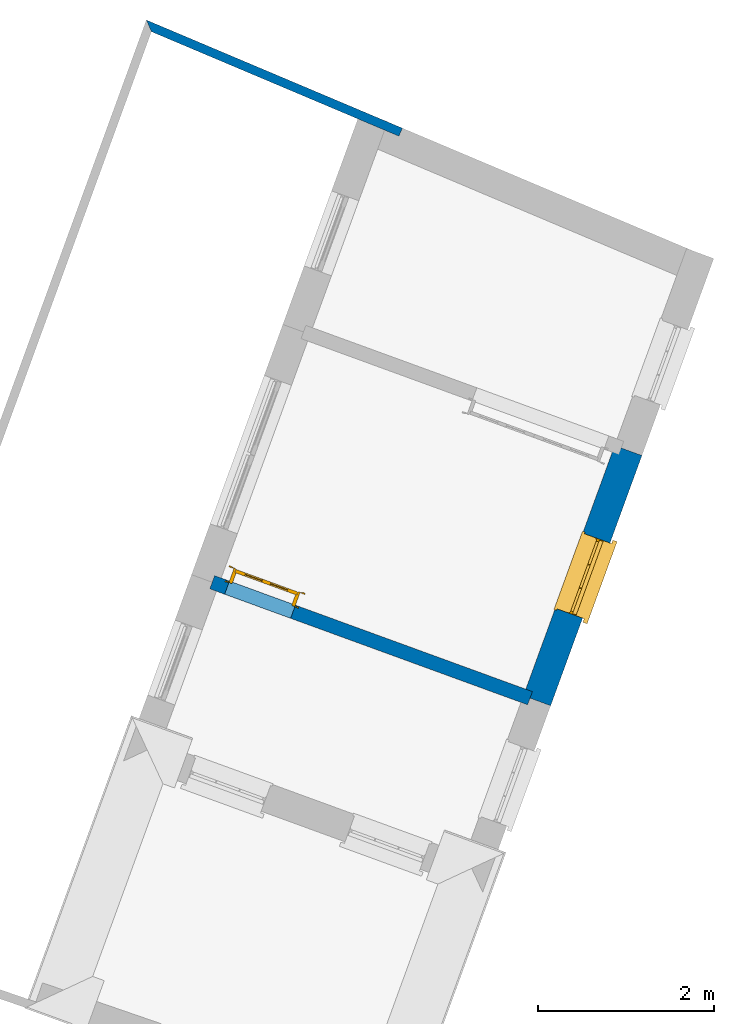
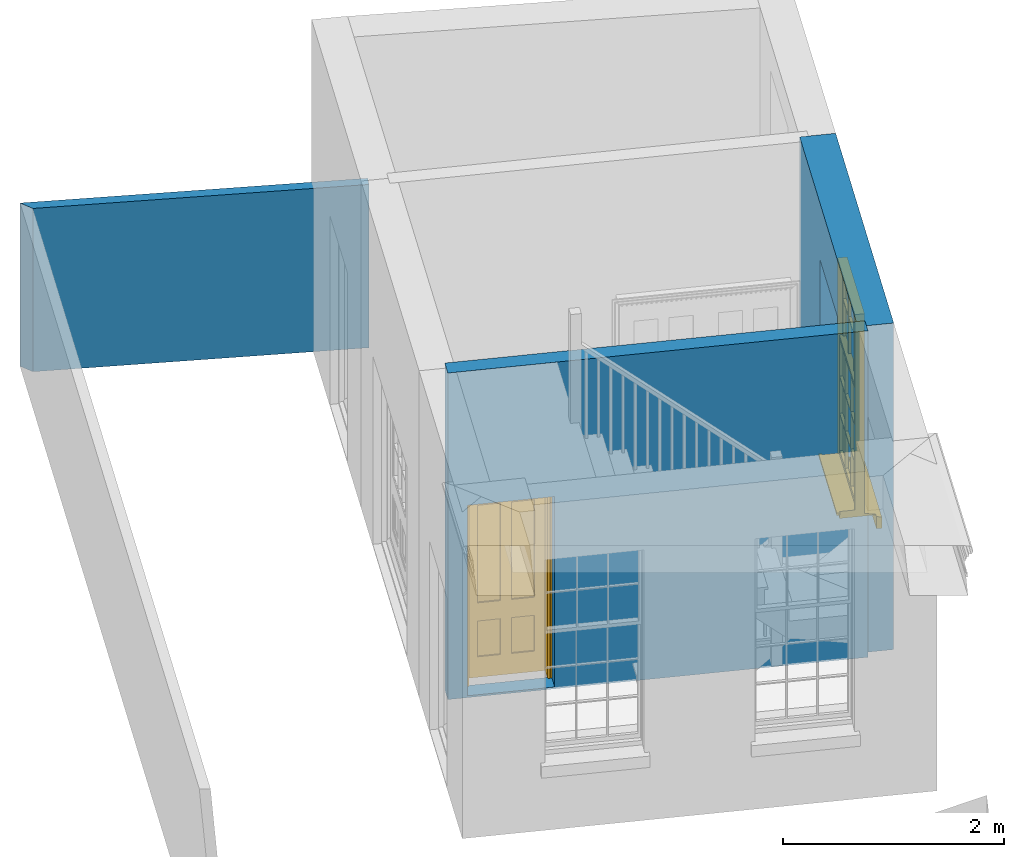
# One storey, part 4 of 6: 3 walls, 1 door, 1 window, 2 openings.
"""IFC4 building model written with IfcOpenShell, lengths in metres."""

from ifc_helpers import new_model, si_unit, frame, origin, origin_with_axes, place, context, subcontext, project, spatial, polyline, outline, extrude, faceted_brep, source, transform, mapped, material, layer, layer_set, layer_usage, type_object, type_shapes, element, fill, save


model = new_model("IFC4")

# Units and contexts
model_context = context("Model", 3, world=origin_with_axes())
body_context = subcontext(model_context, "Body", "Model", "MODEL_VIEW")
ifc_project = project(units=[si_unit("PLANEANGLEUNIT", "RADIAN"), si_unit("MASSUNIT", "GRAM", prefix="KILO"), si_unit("FORCEUNIT", "NEWTON", prefix="KILO"), si_unit("LENGTHUNIT", "METRE"), si_unit("AREAUNIT", "SQUARE_METRE"), si_unit("VOLUMEUNIT", "CUBIC_METRE")], contexts=[model_context, model_context])

# Sites, building, storey
site_1_placement = place(None, origin_with_axes())
site_1 = spatial("IfcSite", under=ifc_project, at=site_1_placement, Name="Tamar")
site_2_placement = place(site_1_placement, origin_with_axes())
site_2 = spatial("IfcSite", under=site_1, at=site_2_placement, Name="Site plot-14", CompositionType="ELEMENT")
building_placement = place(None, origin_with_axes())
building = spatial("IfcBuilding", under=site_2, at=building_placement, Name="Building plot-14", CompositionType="ELEMENT")
storey_placement = place(None, frame((0.0, 0.0, 26.8), z_axis=(0.0, 0.0, 1.0), x_axis=(1.0, 0.0, 0.0)))
storey = spatial("IfcBuildingStorey", under=building, at=storey_placement, Name="plot-14 0", CompositionType="ELEMENT", Elevation=26.8)

# Wall, opening, window
ifc_material_1 = material(Name="Masonry")
ifc_layer_1 = layer(ifc_material_1, 0.33, ventilated=False)
ifc_layer_set_1 = layer_set([ifc_layer_1], Name="exterior_0.08_0.25")
ifc_layer_usage_1 = layer_usage(ifc_layer_set_1, "AXIS2", "POSITIVE", -0.25)
wall_type_1 = type_object("IfcWallType", Name="exterior_0.08_0.25", PredefinedType="SOLIDWALL", material=ifc_layer_set_1)
wall_1_placement = place(storey_placement, frame((253.880110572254, 309.980773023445, 0.0), z_axis=(0.0, 0.0, 1.0), x_axis=(0.342734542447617, 0.939432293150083, 0.0)))
wall_1 = element("IfcWall", 1, at=wall_1_placement, inside=storey, type_object=wall_type_1, material=ifc_layer_usage_1, Name="exterior", context=body_context, shape_type="SweptSolid", body=[
    extrude(outline(polyline([(1.15953053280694e-15, 0.0800000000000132), (3.70412459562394e-14, -0.250000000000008), (3.03282372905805, -0.25), (3.03282372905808, 0.0800000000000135), (1.15953053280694e-15, 0.0800000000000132)])), origin_with_axes(), (0.0, 0.0, 1.0), 3.6),
])
opening_1_placement = place(wall_1_placement, frame((1.06141186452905, 0.0, 0.75)))
opening_1 = element("IfcOpeningElement", 2, at=opening_1_placement, cuts=wall_1, Name="My Opening", ObjectType="Opening", context=body_context, shape_type="SweptSolid", body=[
    extrude(outline(polyline([(0.0, -0.269999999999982), (0.909999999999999, -0.269999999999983), (0.909999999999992, 1.1), (-5.99520433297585e-15, 1.1), (0.0, -0.269999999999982)])), origin_with_axes(), (0.0, 0.0, 1.0), 2.23),
])
window_type = type_object("IfcWindowType", Name="sash_big_taller", PartitioningType="DOUBLE_PANEL_HORIZONTAL", PredefinedType="NOTDEFINED")
shared_shape_1 = source(origin(), body_context, "Body", "Brep", [
    faceted_brep([(0.033125, 0.145, 1.385209), (0.01, 0.145, 1.385209), (0.033125, 0.145, 1.786042), (0.876875, 0.145, 1.385209), (0.876875, 0.145, 1.786042), (0.9, 0.145, 1.385209), (0.876875, 0.145, 1.796042), (0.876875, 0.145, 2.196875), (0.9, 0.145, 2.22), (0.033125, 0.145, 2.196875), (0.033125, 0.145, 1.796042), (0.01, 0.145, 2.22), (0.876875, 0.115, 1.786042), (0.876875, 0.115, 1.385209), (0.9, 0.115, 1.347084), (0.033125, 0.115, 2.196875), (0.01, 0.115, 2.22), (0.033125, 0.115, 1.796042), (0.01, 0.115, 1.347084), (0.033125, 0.115, 1.385209), (0.033125, 0.115, 1.786042), (0.876875, 0.115, 2.196875), (0.876875, 0.115, 1.796042), (0.9, 0.115, 2.22), (0.033125, 0.145, 1.347084), (0.01, 0.145, 1.347084), (0.033125, 0.145, 0.94625), (0.876875, 0.145, 1.347084), (0.876875, 0.145, 0.94625), (0.9, 0.145, 1.347084), (0.876875, 0.145, 0.52625), (0.876875, 0.145, 0.125417), (0.9, 0.145, 0.077167), (0.033125, 0.145, 0.125417), (0.033125, 0.145, 0.52625), (0.01, 0.145, 0.077167), (-0.0425, 0.0, 0.01), (-0.0425, -0.05, 0.001667), (0.0, 0.0, 0.01), (0.9525, 0.0, 0.01), (0.91, 0.0, 0.01), (0.9525, -0.05, 0.001667), (-0.02, 0.33, 0.077167), (0.0, 0.33, 0.077167), (-0.02, 0.36, 0.077167), (0.0, 0.19, 0.077167), (0.01, 0.19, 0.077167), (0.91, 0.19, 0.077167), (0.91, 0.33, 0.077167), (0.9, 0.19, 0.077167), (0.93, 0.33, 0.077167), (0.93, 0.36, 0.077167), (0.01, 0.175, 1.385209), (0.9, 0.175, 1.385209), (0.876875, 0.175, 0.125417), (0.876875, 0.175, 0.52625), (0.9, 0.175, 0.077167), (0.876875, 0.175, 0.94625), (0.876875, 0.175, 1.347084), (0.033125, 0.175, 0.125417), (0.01, 0.175, 0.077167), (0.033125, 0.175, 0.52625), (0.033125, 0.175, 1.347084), (0.033125, 0.175, 0.94625), (-0.02, 0.33, 0.052167), (-0.02, 0.36, 0.052167), (0.93, 0.36, 0.052167), (0.93, 0.33, 0.052167), (0.91, 0.33, 0.052167), (0.0, 0.33, 0.052167), (0.91, 0.1, 0.026667), (0.0, 0.1, 0.026667), (-0.0425, -0.05, -0.123333), (0.9525, -0.05, -0.123333), (-0.0425, 0.0, -0.123333), (0.9525, 0.0, -0.123333), (0.01, 0.19, 2.22), (0.9, 0.19, 2.22), (0.0, 0.19, 2.23), (0.91, 0.19, 2.23), (0.01, 0.1, 0.077167), (0.9, 0.1, 0.077167), (0.592292, 0.145, 0.125417), (0.592292, 0.175, 0.125417), (0.317708, 0.175, 0.125417), (0.317708, 0.145, 0.125417), (0.592292, 0.145, 0.53625), (0.317708, 0.145, 0.53625), (0.317708, 0.145, 0.52625), (0.592292, 0.145, 0.52625), (0.592292, 0.175, 0.53625), (0.317708, 0.175, 0.53625), (0.592292, 0.115, 1.796042), (0.592292, 0.145, 1.796042), (0.317708, 0.145, 1.796042), (0.317708, 0.115, 1.796042), (0.317708, 0.115, 1.786042), (0.592292, 0.115, 1.786042), (0.317708, 0.145, 1.786042), (0.592292, 0.145, 1.786042), (0.602292, 0.115, 1.786042), (0.592292, 0.115, 1.385209), (0.602292, 0.115, 1.385209), (0.602292, 0.145, 1.385209), (0.592292, 0.145, 1.385209), (0.602292, 0.145, 1.786042), (0.876875, 0.145, 0.53625), (0.876875, 0.175, 0.53625), (0.602292, 0.175, 0.53625), (0.602292, 0.145, 0.53625), (0.317708, 0.175, 0.52625), (0.307708, 0.175, 0.125417), (0.307708, 0.175, 0.52625), (0.602292, 0.175, 0.52625), (0.602292, 0.175, 0.125417), (0.592292, 0.175, 0.52625), (0.307708, 0.175, 0.53625), (0.033125, 0.175, 0.53625), (0.317708, 0.175, 1.347084), (0.317708, 0.175, 0.94625), (0.307708, 0.175, 0.94625), (0.307708, 0.175, 1.347084), (0.602292, 0.175, 1.347084), (0.602292, 0.175, 0.94625), (0.592292, 0.175, 0.94625), (0.592292, 0.175, 1.347084), (0.307708, 0.145, 0.52625), (0.307708, 0.145, 0.125417), (0.307708, 0.145, 0.53625), (0.033125, 0.145, 0.53625), (0.307708, 0.145, 1.347084), (0.307708, 0.145, 0.94625), (0.592292, 0.145, 1.347084), (0.592292, 0.145, 0.94625), (0.317708, 0.145, 0.94625), (0.317708, 0.145, 1.347084), (0.602292, 0.145, 0.94625), (0.602292, 0.145, 1.347084), (0.602292, 0.145, 0.52625), (0.602292, 0.145, 0.125417), (0.307708, 0.115, 1.796042), (0.307708, 0.115, 1.786042), (0.307708, 0.115, 1.385209), (0.317708, 0.115, 1.385209), (0.317708, 0.115, 2.196875), (0.307708, 0.115, 2.196875), (0.602292, 0.115, 2.196875), (0.592292, 0.115, 2.196875), (0.602292, 0.115, 1.796042), (0.602292, 0.145, 1.796042), (0.307708, 0.145, 1.796042), (0.307708, 0.145, 2.196875), (0.317708, 0.145, 2.196875), (0.592292, 0.145, 2.196875), (0.602292, 0.145, 2.196875), (0.307708, 0.145, 1.786042), (0.317708, 0.145, 1.385209), (0.307708, 0.145, 1.385209), (0.876875, 0.175, 0.93625), (0.033125, 0.175, 0.93625), (0.033125, 0.145, 0.93625), (0.876875, 0.145, 0.93625), (0.91, 0.1, 2.23), (0.9, 0.1, 2.22), (0.01, 0.1, 2.22), (0.0, 0.1, 2.23), (0.91, 0.0, 0.0), (0.0, 0.0, 0.0), (0.91, 0.33, 0.0), (0.0, 0.33, 0.0), (0.317708, 0.145, 0.93625), (0.592292, 0.145, 0.93625), (0.317708, 0.175, 0.93625), (0.307708, 0.175, 0.93625), (0.602292, 0.175, 0.93625), (0.592292, 0.175, 0.93625), (0.307708, 0.145, 0.93625), (0.602292, 0.145, 0.93625)], [[[0, 1, 2]], [[3, 4, 5]], [[6, 7, 8]], [[9, 10, 11]], [[12, 13, 14]], [[15, 16, 17]], [[18, 19, 20]], [[21, 22, 23]], [[24, 25, 26]], [[27, 28, 29]], [[30, 31, 32]], [[33, 34, 35]], [[14, 27, 29]], [[25, 24, 18]], [[36, 37, 38]], [[39, 40, 41]], [[42, 43, 44]], [[45, 46, 43]], [[47, 48, 49]], [[50, 51, 48]], [[1, 0, 52]], [[5, 53, 3]], [[54, 55, 56]], [[57, 58, 53]], [[59, 60, 61]], [[62, 63, 52]], [[48, 43, 46, 49]], [[51, 44, 43, 48]], [[64, 42, 44, 65]], [[65, 44, 51, 66]], [[66, 51, 50, 67]], [[65, 66, 68, 69]], [[60, 56, 49, 46]], [[70, 71, 38, 40]], [[37, 41, 40, 38]], [[37, 72, 73, 41]], [[74, 75, 73, 72]], [[8, 11, 76, 77]], [[76, 78, 79, 77]], [[32, 35, 80, 81]], [[81, 80, 71, 70]], [[82, 83, 84, 85]], [[86, 87, 88, 89]], [[86, 90, 91, 87]], [[92, 93, 94, 95]], [[92, 95, 96, 97]], [[96, 98, 99, 97]], [[100, 97, 101, 102]], [[103, 104, 99, 105]], [[97, 99, 104, 101]], [[102, 103, 105, 100]], [[106, 107, 108, 109]], [[110, 84, 111, 112]], [[113, 114, 83, 115]], [[116, 112, 61, 117]], [[90, 115, 110, 91]], [[118, 119, 120, 121]], [[122, 123, 124, 125]], [[113, 108, 107, 55]], [[126, 112, 111, 127]], [[34, 61, 112, 126]], [[89, 115, 83, 82]], [[88, 110, 115, 89]], [[85, 84, 110, 88]], [[128, 116, 117, 129]], [[130, 121, 120, 131]], [[132, 125, 124, 133]], [[134, 119, 118, 135]], [[136, 123, 122, 137]], [[138, 113, 55, 30]], [[139, 114, 113, 138]], [[138, 30, 106, 109]], [[88, 126, 127, 85]], [[138, 89, 82, 139]], [[137, 132, 133, 136]], [[128, 129, 34, 126]], [[135, 130, 131, 134]], [[140, 17, 20, 141]], [[96, 141, 142, 143]], [[144, 145, 140, 95]], [[146, 147, 92, 148]], [[100, 12, 22, 148]], [[149, 6, 4, 105]], [[94, 150, 151, 152]], [[149, 93, 153, 154]], [[99, 98, 94, 93]], [[155, 2, 10, 150]], [[156, 157, 155, 98]], [[141, 155, 157, 142]], [[20, 2, 155, 141]], [[143, 156, 98, 96]], [[140, 150, 10, 17]], [[145, 151, 150, 140]], [[147, 153, 93, 92]], [[95, 94, 152, 144]], [[22, 6, 149, 148]], [[148, 149, 154, 146]], [[100, 105, 4, 12]], [[109, 86, 89, 138]], [[108, 113, 115, 90]], [[91, 110, 112, 116]], [[87, 128, 126, 88]], [[97, 100, 148, 92]], [[141, 96, 95, 140]], [[98, 155, 150, 94]], [[105, 99, 93, 149]], [[143, 101, 104, 156]], [[135, 118, 125, 132]], [[144, 152, 153, 147]], [[127, 111, 59, 33]], [[15, 9, 151, 145]], [[146, 154, 7, 21]], [[31, 54, 114, 139]], [[36, 74, 72, 37]], [[39, 41, 73, 75]], [[18, 14, 101, 143]], [[23, 16, 144, 147]], [[83, 56, 60, 84]], [[52, 53, 125, 118]], [[53, 52, 156, 104]], [[11, 8, 153, 152]], [[14, 18, 135, 132]], [[2, 1, 11, 10]], [[8, 5, 4, 6]], [[57, 53, 56, 158]], [[60, 52, 63, 159]], [[26, 25, 35, 160]], [[32, 29, 28, 161]], [[14, 23, 22, 12]], [[18, 20, 17, 16]], [[19, 0, 2, 20]], [[17, 10, 9, 15]], [[12, 4, 3, 13]], [[21, 7, 6, 22]], [[27, 58, 57, 28]], [[30, 55, 54, 31]], [[33, 59, 61, 34]], [[26, 63, 62, 24]], [[5, 8, 77, 53]], [[76, 11, 1, 52]], [[46, 45, 78, 76]], [[49, 77, 79, 47]], [[70, 162, 163, 81]], [[71, 80, 164, 165]], [[19, 142, 157, 0]], [[102, 13, 3, 103]], [[121, 130, 24, 62]], [[29, 32, 81, 14]], [[80, 35, 25, 18]], [[60, 46, 76, 52]], [[77, 49, 56, 53]], [[23, 14, 81, 163]], [[16, 164, 80, 18]], [[35, 85, 127]], [[127, 33, 35]], [[139, 82, 32]], [[32, 31, 139]], [[32, 82, 85, 35]], [[102, 101, 14]], [[14, 13, 102]], [[18, 143, 142]], [[142, 19, 18]], [[146, 21, 23]], [[23, 147, 146]], [[16, 15, 145]], [[145, 144, 16]], [[11, 152, 151]], [[151, 9, 11]], [[154, 153, 8]], [[8, 7, 154]], [[23, 163, 164, 16]], [[162, 165, 164, 163]], [[52, 118, 121]], [[121, 62, 52]], [[125, 53, 122]], [[58, 122, 53]], [[27, 137, 122, 58]], [[56, 83, 114]], [[114, 54, 56]], [[111, 84, 60]], [[60, 59, 111]], [[137, 27, 14]], [[14, 132, 137]], [[130, 135, 18]], [[18, 24, 130]], [[157, 156, 52]], [[52, 0, 157]], [[103, 3, 53]], [[53, 104, 103]], [[79, 78, 165, 162]], [[78, 45, 71, 165]], [[162, 70, 47, 79]], [[166, 75, 74, 167]], [[68, 66, 67]], [[48, 68, 67, 50]], [[69, 64, 65]], [[42, 64, 69, 43]], [[69, 68, 168, 169]], [[70, 68, 48, 47]], [[166, 168, 68, 70]], [[43, 69, 71, 45]], [[69, 169, 167, 71]], [[168, 166, 167, 169]], [[38, 167, 74, 36]], [[71, 167, 38]], [[39, 75, 166, 40]], [[40, 166, 70]], [[133, 134, 170, 171]], [[133, 124, 119, 134]], [[28, 57, 123, 136]], [[172, 91, 116, 173]], [[174, 108, 90, 175]], [[120, 173, 159, 63]], [[124, 175, 172, 119]], [[174, 123, 57, 158]], [[176, 173, 116, 128]], [[160, 159, 173, 176]], [[171, 175, 90, 86]], [[170, 172, 175, 171]], [[87, 91, 172, 170]], [[131, 120, 63, 26]], [[177, 174, 158, 161]], [[109, 108, 174, 177]], [[177, 161, 28, 136]], [[170, 176, 128, 87]], [[177, 171, 86, 109]], [[131, 26, 160, 176]], [[136, 133, 171, 177]], [[123, 174, 175, 124]], [[119, 172, 173, 120]], [[134, 131, 176, 170]], [[129, 117, 159, 160]], [[161, 158, 107, 106]], [[35, 34, 129]], [[35, 129, 160]], [[32, 106, 30]], [[32, 161, 106]], [[56, 55, 107]], [[56, 107, 158]], [[60, 117, 61]], [[60, 159, 117]]]),
])
type_shapes(window_type, [shared_shape_1])
window_placement = place(storey_placement, frame((254.497539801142, 310.885359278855, 0.75), z_axis=(0.0, 0.0, 1.0), x_axis=(0.311888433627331, 0.854883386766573, 0.0)))
window = element("IfcWindow", 3, at=window_placement, inside=storey, type_object=window_type, Name="living street window", OverallHeight=2.23, OverallWidth=0.91, context=body_context, shape_type="MappedRepresentation", body=[
    mapped(shared_shape_1, transform((0.0, 0.0, 0.0), scale=1.0)),
])
fill(opening_1, window)

# Wall, opening, door
ifc_material_2 = material(Name="Masonry")
ifc_layer_2 = layer(ifc_material_2, 0.16, ventilated=False)
ifc_layer_set_2 = layer_set([ifc_layer_2], Name="interior_0.08_0.08")
ifc_layer_usage_2 = layer_usage(ifc_layer_set_2, "AXIS2", "POSITIVE", -0.08)
wall_type_2 = type_object("IfcWallType", Name="interior_0.08_0.08", PredefinedType="SOLIDWALL", material=ifc_layer_set_2)
wall_2_placement = place(storey_placement, frame((250.26141527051, 311.300987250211, 0.0), z_axis=(0.0, 0.0, 1.0), x_axis=(0.939432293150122, -0.34273454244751, 0.0)))
wall_2 = element("IfcWall", 4, at=wall_2_placement, inside=storey, type_object=wall_type_2, material=ifc_layer_usage_2, Name="interior", context=body_context, shape_type="SweptSolid", body=[
    extrude(outline(polyline([(1.9971149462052e-14, 0.0799999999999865), (-1.99809466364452e-14, -0.0799999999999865), (3.85200224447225, -0.0799999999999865), (3.85200224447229, 0.0799999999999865), (1.9971149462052e-14, 0.0799999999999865)])), origin_with_axes(), (0.0, 0.0, 1.0), 3.6),
])
opening_2_placement = place(wall_2_placement, frame((0.180000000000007, 0.0, 0.0199999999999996)))
opening_2 = element("IfcOpeningElement", 5, at=opening_2_placement, cuts=wall_2, Name="My Opening", ObjectType="Opening", context=body_context, shape_type="SweptSolid", body=[
    extrude(outline(polyline([(0.0, -0.0999999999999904), (0.799999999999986, -0.100000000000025), (0.800000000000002, 1.09999999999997), (1.55708779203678e-14, 1.10000000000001), (0.0, -0.0999999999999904)])), origin_with_axes(), (0.0, 0.0, 1.0), 2.1),
])
door_type = type_object("IfcDoorType", Name="door_inside", OperationType="SINGLE_SWING_LEFT", PredefinedType="NOTDEFINED")
shared_shape_2 = source(origin(), body_context, "Body", "Brep", [
    faceted_brep([(0.773, 0.33, 1.895), (0.66, 0.33, 1.895), (0.66, 0.33, 2.073), (0.773, 0.33, 2.073), (0.773, 0.33, 0.82), (0.66, 0.33, 0.82), (0.45, 0.33, 1.895), (0.45, 0.33, 2.073), (0.773, 0.33, 0.62), (0.66, 0.33, 0.62), (0.66, 0.315, 0.82), (0.66, 0.315, 1.895), (0.45, 0.315, 1.895), (0.35, 0.33, 1.895), (0.35, 0.33, 2.073), (0.773, 0.33, 0.225), (0.66, 0.33, 0.225), (0.45, 0.33, 0.62), (0.45, 0.33, 0.82), (0.45, 0.315, 0.82), (0.35, 0.33, 0.82), (0.14, 0.33, 2.073), (0.14, 0.33, 1.895), (0.773, 0.33, 0.0), (0.66, 0.33, 0.0), (0.66, 0.315, 0.225), (0.66, 0.315, 0.62), (0.45, 0.315, 0.62), (0.35, 0.33, 0.62), (0.35, 0.315, 0.82), (0.35, 0.315, 1.895), (0.14, 0.315, 1.895), (0.027, 0.33, 2.073), (0.027, 0.33, 1.895), (0.773, 0.292, 0.0), (0.66, 0.292, 0.0), (0.45, 0.33, 0.0), (0.45, 0.33, 0.225), (0.45, 0.315, 0.225), (0.35, 0.33, 0.225), (0.14, 0.33, 0.82), (0.14, 0.33, 0.62), (0.14, 0.315, 0.82), (0.027, 0.33, 0.82), (0.773, 0.292, 0.225), (0.66, 0.292, 0.225), (0.45, 0.292, 0.0), (0.35, 0.33, 0.0), (0.35, 0.315, 0.225), (0.35, 0.315, 0.62), (0.14, 0.315, 0.62), (0.027, 0.33, 0.62), (0.773, 0.292, 0.62), (0.66, 0.292, 0.62), (0.45, 0.292, 0.225), (0.35, 0.292, 0.0), (0.14, 0.33, 0.225), (0.14, 0.33, 0.0), (0.14, 0.315, 0.225), (0.027, 0.33, 0.225), (0.773, 0.292, 0.82), (0.66, 0.292, 0.82), (0.66, 0.307, 0.62), (0.66, 0.307, 0.225), (0.45, 0.307, 0.225), (0.35, 0.292, 0.225), (0.14, 0.292, 0.0), (0.027, 0.33, 0.0), (0.773, 0.292, 1.895), (0.66, 0.292, 1.895), (0.45, 0.292, 0.62), (0.45, 0.292, 0.82), (0.45, 0.307, 0.62), (0.35, 0.292, 0.62), (0.14, 0.292, 0.225), (0.027, 0.292, 0.0), (0.773, 0.292, 2.073), (0.66, 0.292, 2.073), (0.66, 0.307, 1.895), (0.66, 0.307, 0.82), (0.45, 0.307, 0.82), (0.35, 0.292, 0.82), (0.35, 0.307, 0.62), (0.35, 0.307, 0.225), (0.14, 0.307, 0.225), (0.027, 0.292, 0.225), (0.45, 0.292, 1.895), (0.45, 0.292, 2.073), (0.45, 0.307, 1.895), (0.35, 0.292, 1.895), (0.14, 0.292, 0.82), (0.14, 0.292, 0.62), (0.14, 0.307, 0.62), (0.027, 0.292, 0.62), (0.35, 0.292, 2.073), (0.35, 0.307, 1.895), (0.35, 0.307, 0.82), (0.14, 0.307, 0.82), (0.027, 0.292, 0.82), (0.14, 0.292, 2.073), (0.14, 0.292, 1.895), (0.14, 0.307, 1.895), (0.027, 0.292, 1.895), (0.027, 0.292, 2.073), (0.02, 0.335, 0.0), (0.005, 0.34, 0.0), (0.005, 0.34, 2.095), (0.02, 0.335, 2.08), (0.02, 0.33, 0.0), (0.0, 0.335, 0.0), (0.0, 0.335, 2.1), (0.795, 0.34, 2.095), (0.78, 0.335, 2.08), (0.02, 0.33, 2.08), (0.0, 0.33, 0.0), (-0.032, 0.345, 0.0), (-0.032, 0.345, 2.132), (0.8, 0.335, 2.1), (0.795, 0.34, 0.0), (0.78, 0.335, 0.0), (0.78, 0.33, 2.08), (0.04, 0.29, 0.0), (0.025, 0.29, 0.0), (0.025, 0.29, 2.075), (0.04, 0.29, 2.06), (-0.04, 0.34, 0.0), (-0.04, 0.34, 2.14), (0.832, 0.345, 2.132), (0.8, 0.335, 0.0), (0.78, 0.33, 0.0), (0.8, 0.33, 0.0), (0.86, 0.33, 0.0), (0.86, 0.33, 2.16), (0.8, 0.33, 2.1), (-0.06, 0.33, 2.16), (0.0, 0.33, 2.1), (-0.06, 0.33, 0.0), (-0.04, 0.345, 0.0), (-0.04, 0.345, 2.14), (0.84, 0.34, 2.14), (0.832, 0.345, 0.0), (0.84, 0.34, 0.0), (0.86, 0.345, 0.0), (0.86, 0.345, 2.16), (-0.06, 0.345, 2.16), (-0.06, 0.345, 0.0), (0.84, 0.345, 0.0), (0.84, 0.345, 2.14), (-0.025, 0.155, 0.0), (-0.025, 0.16, 0.0), (-0.025, 0.16, 2.125), (-0.025, 0.155, 2.125), (-0.017, 0.155, 0.0), (-0.017, 0.155, 2.117), (0.825, 0.16, 2.125), (0.825, 0.155, 2.125), (0.825, 0.155, 0.0), (0.845, 0.155, 0.0), (-0.045, 0.155, 2.145), (-0.045, 0.155, 0.0), (0.845, 0.155, 2.145), (0.015, 0.165, 0.0), (0.015, 0.165, 2.085), (0.817, 0.155, 2.117), (0.825, 0.16, 0.0), (0.845, 0.17, 0.0), (0.845, 0.17, 2.145), (-0.045, 0.17, 2.145), (-0.045, 0.17, 0.0), (0.02, 0.16, 0.0), (0.02, 0.16, 2.08), (0.785, 0.165, 2.085), (0.817, 0.155, 0.0), (0.8, 0.17, 0.0), (0.8, 0.17, 2.1), (0.0, 0.17, 2.1), (0.0, 0.17, 0.0), (0.035, 0.165, 0.0), (0.035, 0.165, 2.065), (0.78, 0.16, 2.08), (0.785, 0.165, 0.0), (0.775, 0.29, 2.075), (0.76, 0.29, 2.06), (0.035, 0.17, 2.065), (0.035, 0.17, 0.0), (0.765, 0.165, 2.065), (0.78, 0.16, 0.0), (0.765, 0.17, 0.0), (0.765, 0.17, 2.065), (0.765, 0.165, 0.0), (0.04, 0.17, 2.06), (0.04, 0.17, 0.0), (0.76, 0.17, 2.06), (0.76, 0.17, 0.0), (0.76, 0.29, 0.0), (0.775, 0.29, 0.0), (0.025, 0.33, 0.0), (0.025, 0.33, 2.075), (0.775, 0.33, 0.0), (0.775, 0.33, 2.075)], [[[0, 1, 2, 3]], [[1, 0, 4, 5]], [[1, 6, 7, 2]], [[8, 9, 5, 4]], [[1, 5, 10, 11]], [[6, 1, 11, 12]], [[6, 13, 14, 7]], [[15, 16, 9, 8]], [[9, 17, 18, 5]], [[5, 18, 19, 10]], [[10, 19, 12, 11]], [[18, 6, 12, 19]], [[18, 20, 13, 6]], [[21, 14, 13, 22]], [[23, 24, 16, 15]], [[9, 16, 25, 26]], [[17, 9, 26, 27]], [[17, 28, 20, 18]], [[13, 20, 29, 30]], [[22, 13, 30, 31]], [[32, 21, 22, 33]], [[34, 35, 24, 23]], [[24, 36, 37, 16]], [[16, 37, 38, 25]], [[25, 38, 27, 26]], [[37, 17, 27, 38]], [[37, 39, 28, 17]], [[40, 20, 28, 41]], [[20, 40, 42, 29]], [[31, 30, 29, 42]], [[40, 22, 31, 42]], [[33, 22, 40, 43]], [[35, 34, 44, 45]], [[35, 46, 36, 24]], [[36, 47, 39, 37]], [[28, 39, 48, 49]], [[41, 28, 49, 50]], [[43, 40, 41, 51]], [[45, 44, 52, 53]], [[46, 35, 45, 54]], [[46, 55, 47, 36]], [[56, 39, 47, 57]], [[39, 56, 58, 48]], [[50, 49, 48, 58]], [[56, 41, 50, 58]], [[51, 41, 56, 59]], [[53, 52, 60, 61]], [[45, 53, 62, 63]], [[54, 45, 63, 64]], [[55, 46, 54, 65]], [[55, 66, 57, 47]], [[59, 56, 57, 67]], [[61, 60, 68, 69]], [[70, 53, 61, 71]], [[53, 70, 72, 62]], [[72, 64, 63, 62]], [[70, 54, 64, 72]], [[65, 54, 70, 73]], [[65, 74, 66, 55]], [[67, 57, 66, 75]], [[69, 68, 76, 77]], [[61, 69, 78, 79]], [[71, 61, 79, 80]], [[73, 70, 71, 81]], [[65, 73, 82, 83]], [[74, 65, 83, 84]], [[74, 85, 75, 66]], [[86, 69, 77, 87]], [[69, 86, 88, 78]], [[88, 80, 79, 78]], [[86, 71, 80, 88]], [[81, 71, 86, 89]], [[73, 81, 90, 91]], [[73, 91, 92, 82]], [[83, 82, 92, 84]], [[91, 74, 84, 92]], [[91, 93, 85, 74]], [[89, 86, 87, 94]], [[81, 89, 95, 96]], [[90, 81, 96, 97]], [[90, 98, 93, 91]], [[94, 99, 100, 89]], [[89, 100, 101, 95]], [[101, 97, 96, 95]], [[100, 90, 97, 101]], [[100, 102, 98, 90]], [[99, 103, 102, 100]], [[32, 103, 99, 21]], [[102, 103, 32, 33]], [[98, 102, 33, 43]], [[21, 99, 94, 14]], [[94, 87, 7, 14]], [[7, 87, 77, 2]], [[76, 3, 2, 77]], [[43, 51, 93, 98]], [[51, 59, 85, 93]], [[67, 75, 85, 59]], [[34, 23, 15, 44]], [[44, 15, 8, 52]], [[52, 8, 4, 60]], [[0, 68, 60, 4]], [[0, 3, 76, 68]], [[104, 105, 106, 107]], [[104, 108, 109, 105]], [[105, 109, 110, 106]], [[107, 106, 111, 112]], [[107, 113, 108, 104]], [[114, 109, 108]], [[109, 115, 116, 110]], [[106, 110, 117, 111]], [[112, 111, 118, 119]], [[113, 107, 112, 120]], [[121, 122, 123, 124]], [[115, 109, 114, 125]], [[115, 125, 126, 116]], [[110, 116, 127, 117]], [[111, 117, 128, 118]], [[118, 128, 129, 119]], [[120, 112, 119, 129]], [[130, 129, 128]], [[130, 131, 132, 133]], [[133, 132, 134, 135]], [[135, 134, 136, 114]], [[136, 125, 114]], [[125, 137, 138, 126]], [[116, 126, 139, 127]], [[117, 127, 140, 128]], [[141, 130, 128, 140]], [[131, 130, 141]], [[131, 142, 143, 132]], [[132, 143, 144, 134]], [[134, 144, 145, 136]], [[137, 125, 136, 145]], [[143, 142, 146]], [[143, 146, 147]], [[137, 145, 144]], [[143, 147, 138]], [[138, 137, 144]], [[143, 138, 144]], [[126, 138, 147, 139]], [[127, 139, 141, 140]], [[142, 131, 141, 146]], [[139, 147, 146, 141]], [[148, 149, 150, 151]], [[149, 152, 153, 150]], [[151, 150, 154, 155]], [[155, 156, 157]], [[158, 159, 148]], [[158, 148, 151]], [[155, 157, 160]], [[158, 151, 155]], [[155, 160, 158]], [[152, 161, 162, 153]], [[150, 153, 163, 154]], [[155, 154, 164, 156]], [[156, 164, 165, 157]], [[157, 165, 166, 160]], [[160, 166, 167, 158]], [[158, 167, 168, 159]], [[161, 169, 170, 162]], [[153, 162, 171, 163]], [[154, 163, 172, 164]], [[165, 164, 173]], [[165, 173, 174, 166]], [[166, 174, 175, 167]], [[167, 175, 176, 168]], [[169, 177, 178, 170]], [[162, 170, 179, 171]], [[163, 171, 180, 172]], [[172, 180, 173, 164]], [[124, 123, 181, 182]], [[183, 178, 177, 184]], [[170, 178, 185, 179]], [[171, 179, 186, 180]], [[187, 173, 180]], [[185, 188, 187, 189]], [[188, 185, 178, 183]], [[179, 185, 189, 186]], [[189, 187, 180, 186]], [[190, 183, 184, 191]], [[192, 188, 183, 190]], [[191, 184, 122, 121]], [[124, 190, 191, 121]], [[193, 187, 188, 192]], [[182, 192, 190, 124]], [[184, 176, 122]], [[194, 195, 187, 193]], [[192, 182, 194, 193]], [[161, 176, 184]], [[114, 108, 122, 176]], [[173, 187, 195]], [[152, 149, 176, 161]], [[169, 161, 184, 177]], [[196, 122, 108]], [[176, 175, 135, 114]], [[173, 195, 129, 130]], [[176, 149, 168]], [[123, 122, 196, 197]], [[196, 108, 113, 197]], [[175, 174, 133, 135]], [[198, 129, 195]], [[133, 174, 173, 130]], [[159, 168, 149, 148]], [[181, 123, 197, 199]], [[197, 113, 120, 199]], [[199, 120, 129, 198]], [[195, 181, 199, 198]], [[195, 194, 182, 181]]]),
])
type_shapes(door_type, [shared_shape_2])
door_placement = place(storey_placement, frame((250.396239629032, 311.145351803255, 0.0199999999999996), z_axis=(0.0, 0.0, 1.0), x_axis=(0.751545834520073, -0.274187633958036, 0.0)))
door = element("IfcDoor", 6, at=door_placement, inside=storey, type_object=door_type, Name="living inside door", OverallHeight=2.1, OverallWidth=0.8, context=body_context, shape_type="MappedRepresentation", body=[
    mapped(shared_shape_2, transform((0.0, 0.0, 0.0), scale=1.0)),
])
fill(opening_2, door)

# Wall
ifc_material_3 = material(Name="Masonry")
ifc_layer_3 = layer(ifc_material_3, 0.1, ventilated=False)
ifc_layer_set_3 = layer_set([ifc_layer_3], Name="fence_-0.15_0.25")
ifc_layer_usage_3 = layer_usage(ifc_layer_set_3, "AXIS2", "POSITIVE", -0.25)
wall_type_3 = type_object("IfcWallType", Name="fence_-0.15_0.25", PredefinedType="SOLIDWALL", material=ifc_layer_set_3)
wall_3_placement = place(storey_placement, frame((252.099215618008, 316.338381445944, 0.0), z_axis=(0.0, 0.0, 1.0), x_axis=(-0.921202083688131, 0.389084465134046, 0.0)))
element("IfcWall", 7, at=wall_3_placement, inside=storey, type_object=wall_type_3, material=ifc_layer_usage_3, Name="fence", context=body_context, shape_type="SweptSolid", body=[
    extrude(outline(polyline([(-0.250000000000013, -0.149999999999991), (-0.250000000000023, -0.249999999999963), (2.9140598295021, -0.249999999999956), (2.80895038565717, -0.149999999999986), (-0.250000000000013, -0.149999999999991)])), origin_with_axes(), (0.0, 0.0, 1.0), 1.8),
])

save(model, "model.ifc")
